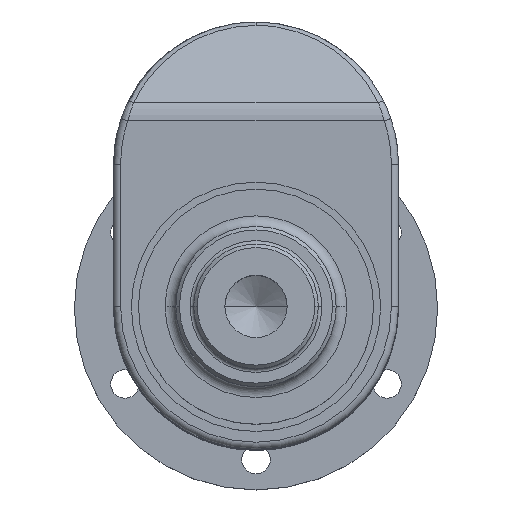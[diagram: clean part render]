
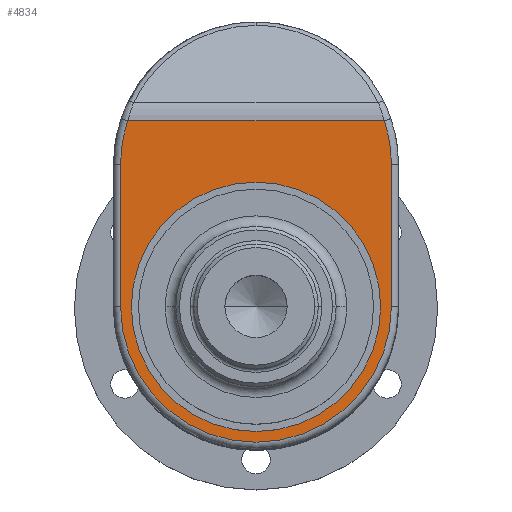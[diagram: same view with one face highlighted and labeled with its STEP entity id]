
A CAD part, top view. The second image highlights one B-rep face of the part: STEP entity #4834.
In plain terms, the highlighted planar face has unit normal (0, 0, 1).
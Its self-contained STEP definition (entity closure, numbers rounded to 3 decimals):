
#92 = DIRECTION ( 'NONE',  ( 0., 0., 1. ) ) ;
#109 = ORIENTED_EDGE ( 'NONE', *, *, #4154, .T. ) ;
#126 = AXIS2_PLACEMENT_3D ( 'NONE', #3459, #5014, #1143 ) ;
#171 = DIRECTION ( 'NONE',  ( 0., -1., 0. ) ) ;
#245 = CIRCLE ( 'NONE', #3798, 38. ) ;
#440 = EDGE_CURVE ( 'NONE', #1504, #6099, #245, .T. ) ;
#452 = EDGE_CURVE ( 'NONE', #5325, #2843, #4506, .T. ) ;
#490 = CARTESIAN_POINT ( 'NONE',  ( 0., -40., 38.5 ) ) ;
#495 = CARTESIAN_POINT ( 'NONE',  ( 38., 0., 38.5 ) ) ;
#594 = DIRECTION ( 'NONE',  ( 1., 0., 0. ) ) ;
#702 = AXIS2_PLACEMENT_3D ( 'NONE', #1891, #2857, #4737 ) ;
#768 = ORIENTED_EDGE ( 'NONE', *, *, #452, .F. ) ;
#864 = CARTESIAN_POINT ( 'NONE',  ( -34.914, 12.23, 38.5 ) ) ;
#966 = FACE_OUTER_BOUND ( 'NONE', #3429, .T. ) ;
#1052 = CARTESIAN_POINT ( 'NONE',  ( -38., 0., 38.5 ) ) ;
#1064 = VERTEX_POINT ( 'NONE', #1862 ) ;
#1143 = DIRECTION ( 'NONE',  ( 1., 0., 0. ) ) ;
#1291 = VERTEX_POINT ( 'NONE', #5272 ) ;
#1485 = DIRECTION ( 'NONE',  ( 0., 0., 1. ) ) ;
#1504 = VERTEX_POINT ( 'NONE', #2521 ) ;
#1703 = ORIENTED_EDGE ( 'NONE', *, *, #5976, .T. ) ;
#1783 = EDGE_CURVE ( 'NONE', #4721, #1504, #2641, .T. ) ;
#1862 = CARTESIAN_POINT ( 'NONE',  ( 35.978, 12.23, 38.5 ) ) ;
#1891 = CARTESIAN_POINT ( 'NONE',  ( 0., 0., 38.5 ) ) ;
#1901 = DIRECTION ( 'NONE',  ( 1., 0., 0. ) ) ;
#1915 = DIRECTION ( 'NONE',  ( 1., 0., 0. ) ) ;
#1953 = DIRECTION ( 'NONE',  ( 0., 1., 0. ) ) ;
#1977 = FACE_BOUND ( 'NONE', #3248, .T. ) ;
#2019 = DIRECTION ( 'NONE',  ( 0., 0., 1. ) ) ;
#2053 = CARTESIAN_POINT ( 'NONE',  ( -35., -40., 38.5 ) ) ;
#2085 = ORIENTED_EDGE ( 'NONE', *, *, #5282, .T. ) ;
#2137 = VECTOR ( 'NONE', #171, 1000. ) ;
#2194 = DIRECTION ( 'NONE',  ( -1., 0., 0. ) ) ;
#2214 = CIRCLE ( 'NONE', #5669, 35. ) ;
#2327 = CIRCLE ( 'NONE', #126, 38. ) ;
#2391 = DIRECTION ( 'NONE',  ( 0., 0., 1. ) ) ;
#2423 = CARTESIAN_POINT ( 'NONE',  ( 38., -40., 38.5 ) ) ;
#2489 = ORIENTED_EDGE ( 'NONE', *, *, #440, .T. ) ;
#2521 = CARTESIAN_POINT ( 'NONE',  ( -38., -40., 38.5 ) ) ;
#2641 = LINE ( 'NONE', #4453, #2137 ) ;
#2837 = CARTESIAN_POINT ( 'NONE',  ( 0., -40., 38.5 ) ) ;
#2843 = VERTEX_POINT ( 'NONE', #2053 ) ;
#2857 = DIRECTION ( 'NONE',  ( 0., 0., 1. ) ) ;
#2962 = ORIENTED_EDGE ( 'NONE', *, *, #1783, .T. ) ;
#3069 = DIRECTION ( 'NONE',  ( 1., 0., 0. ) ) ;
#3216 = EDGE_CURVE ( 'NONE', #1064, #5469, #4663, .T. ) ;
#3248 = EDGE_LOOP ( 'NONE', ( #3997, #768 ) ) ;
#3429 = EDGE_LOOP ( 'NONE', ( #2085, #3450, #109, #2962, #2489, #1703 ) ) ;
#3450 = ORIENTED_EDGE ( 'NONE', *, *, #3216, .T. ) ;
#3459 = CARTESIAN_POINT ( 'NONE',  ( 0., 0., 38.5 ) ) ;
#3798 = AXIS2_PLACEMENT_3D ( 'NONE', #3810, #92, #594 ) ;
#3810 = CARTESIAN_POINT ( 'NONE',  ( 0., -40., 38.5 ) ) ;
#3829 = LINE ( 'NONE', #495, #4774 ) ;
#3997 = ORIENTED_EDGE ( 'NONE', *, *, #4041, .F. ) ;
#4041 = EDGE_CURVE ( 'NONE', #2843, #5325, #2214, .T. ) ;
#4154 = EDGE_CURVE ( 'NONE', #5469, #4721, #2327, .T. ) ;
#4288 = CARTESIAN_POINT ( 'NONE',  ( 0., 0., 38.5 ) ) ;
#4453 = CARTESIAN_POINT ( 'NONE',  ( -38., -40., 38.5 ) ) ;
#4506 = CIRCLE ( 'NONE', #5985, 35. ) ;
#4663 = LINE ( 'NONE', #864, #4924 ) ;
#4721 = VERTEX_POINT ( 'NONE', #1052 ) ;
#4737 = DIRECTION ( 'NONE',  ( 1., 0., 0. ) ) ;
#4774 = VECTOR ( 'NONE', #1953, 1000. ) ;
#4834 = ADVANCED_FACE ( 'NONE', ( #1977, #966 ), #6126, .T. ) ;
#4924 = VECTOR ( 'NONE', #2194, 1000. ) ;
#4977 = CARTESIAN_POINT ( 'NONE',  ( 35., -40., 38.5 ) ) ;
#5014 = DIRECTION ( 'NONE',  ( 0., 0., 1. ) ) ;
#5043 = CARTESIAN_POINT ( 'NONE',  ( -35.978, 12.23, 38.5 ) ) ;
#5062 = CIRCLE ( 'NONE', #5846, 38. ) ;
#5272 = CARTESIAN_POINT ( 'NONE',  ( 38., 0., 38.5 ) ) ;
#5282 = EDGE_CURVE ( 'NONE', #1291, #1064, #5062, .T. ) ;
#5325 = VERTEX_POINT ( 'NONE', #4977 ) ;
#5469 = VERTEX_POINT ( 'NONE', #5043 ) ;
#5669 = AXIS2_PLACEMENT_3D ( 'NONE', #490, #2391, #1915 ) ;
#5846 = AXIS2_PLACEMENT_3D ( 'NONE', #4288, #1485, #3069 ) ;
#5976 = EDGE_CURVE ( 'NONE', #6099, #1291, #3829, .T. ) ;
#5985 = AXIS2_PLACEMENT_3D ( 'NONE', #2837, #2019, #1901 ) ;
#6099 = VERTEX_POINT ( 'NONE', #2423 ) ;
#6126 = PLANE ( 'NONE',  #702 ) ;
